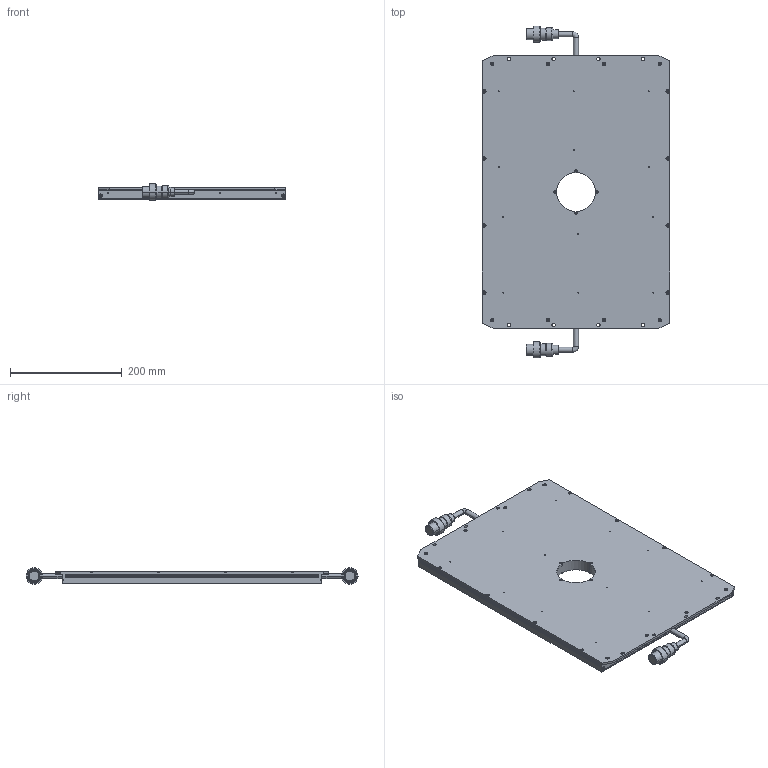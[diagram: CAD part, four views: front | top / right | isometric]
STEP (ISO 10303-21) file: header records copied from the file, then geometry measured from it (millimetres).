
FILE_DESCRIPTION((''),'2;1');
FILE_NAME('LS-LBES-H-450-320-X2','2022-11-04T17:18:54',('LumaSpec Vision'),('LumaSpec Vision'),'CREO PARAMETRIC BY PTC INC, 2020044','CREO PARAMETRIC BY PTC INC, 2020044','');
FILE_SCHEMA(('AUTOMOTIVE_DESIGN { 1 0 10303 214 1 1 1 1 }'));
Products named in the file (1): PRT0001
Bounding box: 335 x 594.25 x 29.25 mm (x, y, z)
Volume: 3264923.4 mm3; surface area: 385685.7 mm2
Topology: 3 solids, 74 shells, 2303 faces, 5233 edges, 3114 vertices
Faces by surface type: plane 1320, cylinder 642, cone 243, torus 98
Entity records: 65384 total; most frequent: CARTESIAN_POINT 12191, DIRECTION 10956, ORIENTED_EDGE 10390, EDGE_CURVE 5195, AXIS2_PLACEMENT_3D 3828, VECTOR 3300, LINE 3300, VERTEX_POINT 3114
